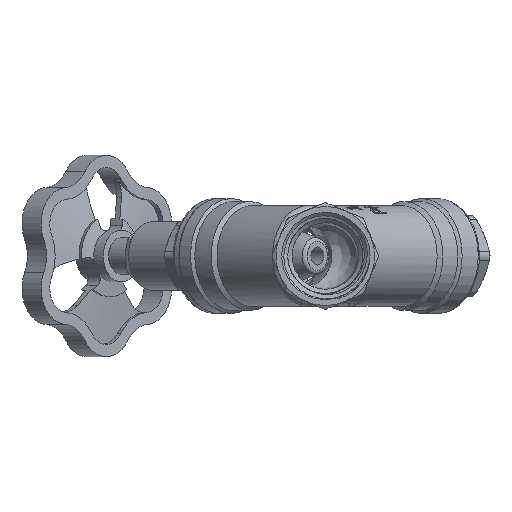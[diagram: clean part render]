
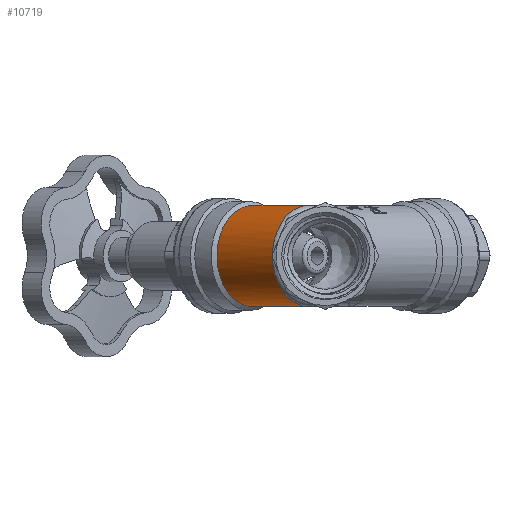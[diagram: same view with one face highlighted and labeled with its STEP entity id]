
A CAD part, left-side view. The second image highlights one B-rep face of the part: STEP entity #10719.
In plain terms, the highlighted cylindrical face has radius 12.5 mm (diameter 25 mm), a partial arc.
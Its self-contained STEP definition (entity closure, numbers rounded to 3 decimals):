
#96=ELLIPSE('',#11420,17.678,12.5);
#97=ELLIPSE('',#11421,17.678,12.5);
#98=ELLIPSE('',#11422,17.678,12.5);
#99=ELLIPSE('',#11423,17.678,12.5);
#412=B_SPLINE_CURVE_WITH_KNOTS('',3,(#16765,#16766,#16767,#16768,#16769,
#16770,#16771),.UNSPECIFIED.,.F.,.F.,(4,3,4),(-0.348,0.,0.147),
 .UNSPECIFIED.);
#413=B_SPLINE_CURVE_WITH_KNOTS('',3,(#16779,#16780,#16781,#16782,#16783,
#16784),.UNSPECIFIED.,.F.,.F.,(4,2,4),(3.054,3.201,
3.549),.UNSPECIFIED.);
#1289=FACE_OUTER_BOUND('',#1906,.T.);
#1906=EDGE_LOOP('',(#7393,#7394,#7395,#7396,#7397,#7398,#7399,#7400));
#3739=CIRCLE('',#11414,12.5);
#3742=CIRCLE('',#11419,12.5);
#4302=VERTEX_POINT('',#16742);
#4303=VERTEX_POINT('',#16747);
#4307=VERTEX_POINT('',#16761);
#4308=VERTEX_POINT('',#16762);
#4309=VERTEX_POINT('',#16764);
#4310=VERTEX_POINT('',#16772);
#4311=VERTEX_POINT('',#16775);
#4312=VERTEX_POINT('',#16777);
#5535=EDGE_CURVE('',#4303,#4302,#3739,.T.);
#5539=EDGE_CURVE('',#4307,#4308,#3742,.T.);
#5540=EDGE_CURVE('',#4309,#4307,#412,.T.);
#5541=EDGE_CURVE('',#4310,#4309,#96,.T.);
#5542=EDGE_CURVE('',#4302,#4310,#97,.T.);
#5543=EDGE_CURVE('',#4311,#4303,#98,.T.);
#5544=EDGE_CURVE('',#4312,#4311,#99,.T.);
#5545=EDGE_CURVE('',#4308,#4312,#413,.T.);
#7393=ORIENTED_EDGE('',*,*,#5539,.F.);
#7394=ORIENTED_EDGE('',*,*,#5540,.F.);
#7395=ORIENTED_EDGE('',*,*,#5541,.F.);
#7396=ORIENTED_EDGE('',*,*,#5542,.F.);
#7397=ORIENTED_EDGE('',*,*,#5535,.F.);
#7398=ORIENTED_EDGE('',*,*,#5543,.F.);
#7399=ORIENTED_EDGE('',*,*,#5544,.F.);
#7400=ORIENTED_EDGE('',*,*,#5545,.F.);
#10510=CYLINDRICAL_SURFACE('',#11418,12.5);
#10719=ADVANCED_FACE('',(#1289),#10510,.T.);
#11414=AXIS2_PLACEMENT_3D('',#16752,#12630,#12631);
#11418=AXIS2_PLACEMENT_3D('',#16760,#12639,#12640);
#11419=AXIS2_PLACEMENT_3D('',#16763,#12641,#12642);
#11420=AXIS2_PLACEMENT_3D('',#16773,#12643,#12644);
#11421=AXIS2_PLACEMENT_3D('',#16774,#12645,#12646);
#11422=AXIS2_PLACEMENT_3D('',#16776,#12647,#12648);
#11423=AXIS2_PLACEMENT_3D('',#16778,#12649,#12650);
#12630=DIRECTION('center_axis',(0.707,0.707,0.));
#12631=DIRECTION('ref_axis',(0.707,-0.707,0.));
#12639=DIRECTION('center_axis',(0.707,0.707,0.));
#12640=DIRECTION('ref_axis',(-0.707,0.707,0.));
#12641=DIRECTION('center_axis',(-0.707,-0.707,0.));
#12642=DIRECTION('ref_axis',(-0.707,0.707,0.));
#12643=DIRECTION('center_axis',(1.,0.,0.));
#12644=DIRECTION('ref_axis',(0.,1.,0.));
#12645=DIRECTION('center_axis',(0.,-1.,0.));
#12646=DIRECTION('ref_axis',(-1.,0.,0.));
#12647=DIRECTION('center_axis',(0.,-1.,0.));
#12648=DIRECTION('ref_axis',(-1.,0.,0.));
#12649=DIRECTION('center_axis',(1.,0.,0.));
#12650=DIRECTION('ref_axis',(0.,1.,0.));
#16742=CARTESIAN_POINT('',(-1.198,13.439,10.677));
#16747=CARTESIAN_POINT('',(-1.198,13.439,-10.677));
#16752=CARTESIAN_POINT('Origin',(-5.794,18.036,0.));
#16760=CARTESIAN_POINT('Origin',(-13.395,10.434,0.));
#16761=CARTESIAN_POINT('',(-14.221,-1.114,9.938));
#16762=CARTESIAN_POINT('',(-14.221,-1.114,-9.938));
#16763=CARTESIAN_POINT('Origin',(-19.582,4.247,0.));
#16764=CARTESIAN_POINT('',(-10.39,2.332,9.724));
#16765=CARTESIAN_POINT('Ctrl Pts',(-10.39,2.332,9.724));
#16766=CARTESIAN_POINT('Ctrl Pts',(-11.416,1.609,9.898));
#16767=CARTESIAN_POINT('Ctrl Pts',(-12.401,0.821,10.));
#16768=CARTESIAN_POINT('Ctrl Pts',(-13.223,0.,
10.));
#16769=CARTESIAN_POINT('Ctrl Pts',(-13.569,-0.346,
10.));
#16770=CARTESIAN_POINT('Ctrl Pts',(-13.908,-0.719,
9.982));
#16771=CARTESIAN_POINT('Ctrl Pts',(-14.221,-1.114,9.938));
#16772=CARTESIAN_POINT('',(-10.39,13.439,12.5));
#16773=CARTESIAN_POINT('Origin',(-10.39,13.439,0.));
#16774=CARTESIAN_POINT('Origin',(-10.39,13.439,0.));
#16775=CARTESIAN_POINT('',(-10.39,13.439,-12.5));
#16776=CARTESIAN_POINT('Origin',(-10.39,13.439,0.));
#16777=CARTESIAN_POINT('',(-10.39,2.332,-9.724));
#16778=CARTESIAN_POINT('Origin',(-10.39,13.439,0.));
#16779=CARTESIAN_POINT('Ctrl Pts',(-14.221,-1.114,-9.938));
#16780=CARTESIAN_POINT('Ctrl Pts',(-13.908,-0.719,
-9.982));
#16781=CARTESIAN_POINT('Ctrl Pts',(-13.569,-0.346,
-10.));
#16782=CARTESIAN_POINT('Ctrl Pts',(-12.401,0.821,
-10.));
#16783=CARTESIAN_POINT('Ctrl Pts',(-11.416,1.609,-9.898));
#16784=CARTESIAN_POINT('Ctrl Pts',(-10.39,2.332,-9.724));
